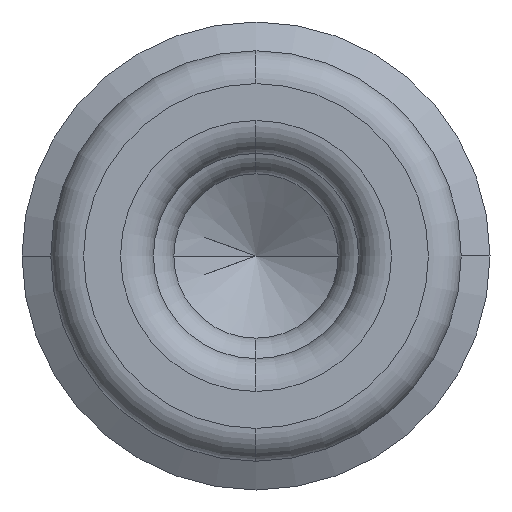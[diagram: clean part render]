
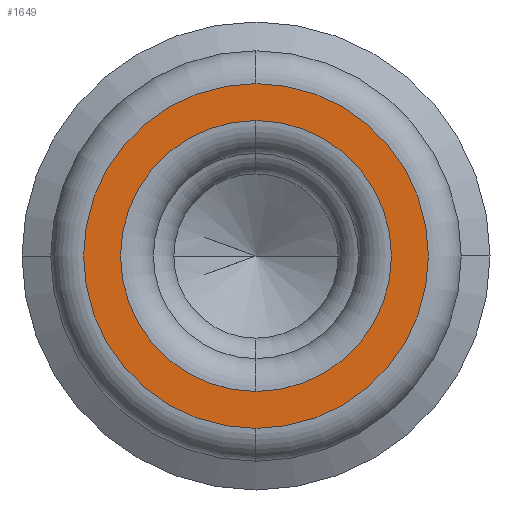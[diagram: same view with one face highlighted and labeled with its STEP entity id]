
A CAD part, left-side view. The second image highlights one B-rep face of the part: STEP entity #1649.
In plain terms, the highlighted planar face has unit normal (-1, 0, 0).
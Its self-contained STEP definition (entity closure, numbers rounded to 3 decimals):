
#1260=CARTESIAN_POINT('',(-1.0,0.,-1.65));
#1261=VERTEX_POINT('',#1260);
#1279=CARTESIAN_POINT('',(-1.0,0.,1.65));
#1280=VERTEX_POINT('',#1279);
#1288=CARTESIAN_POINT('',(-1.0,1.65,0.0));
#1289=VERTEX_POINT('',#1288);
#1290=CARTESIAN_POINT('',(-1.0,0.0,0.0));
#1291=DIRECTION('',(-1.0,0.0,0.0));
#1292=DIRECTION('',(0.0,-1.0,0.0));
#1293=AXIS2_PLACEMENT_3D('',#1290,#1291,#1292);
#1294=CIRCLE('',#1293,1.65);
#1295=EDGE_CURVE('',#1280,#1289,#1294,.T.);
#1297=CARTESIAN_POINT('',(-1.0,0.0,0.0));
#1298=DIRECTION('',(-1.0,0.0,0.0));
#1299=DIRECTION('',(0.0,-1.0,0.0));
#1300=AXIS2_PLACEMENT_3D('',#1297,#1298,#1299);
#1301=CIRCLE('',#1300,1.65);
#1302=EDGE_CURVE('',#1289,#1261,#1301,.T.);
#1353=CARTESIAN_POINT('',(-1.0,0.,-2.1));
#1354=VERTEX_POINT('',#1353);
#1364=CARTESIAN_POINT('',(-1.0,2.1,0.0));
#1365=VERTEX_POINT('',#1364);
#1366=CARTESIAN_POINT('',(-1.0,0.0,0.0));
#1367=DIRECTION('',(1.0,0.0,0.0));
#1368=DIRECTION('',(0.0,-1.0,0.0));
#1369=AXIS2_PLACEMENT_3D('',#1366,#1367,#1368);
#1370=CIRCLE('',#1369,2.1);
#1371=EDGE_CURVE('',#1354,#1365,#1370,.T.);
#1373=CARTESIAN_POINT('',(-1.0,0.,2.1));
#1374=VERTEX_POINT('',#1373);
#1375=CARTESIAN_POINT('',(-1.0,0.0,0.0));
#1376=DIRECTION('',(1.0,0.0,0.0));
#1377=DIRECTION('',(0.0,-1.0,0.0));
#1378=AXIS2_PLACEMENT_3D('',#1375,#1376,#1377);
#1379=CIRCLE('',#1378,2.1);
#1380=EDGE_CURVE('',#1365,#1374,#1379,.T.);
#1618=CARTESIAN_POINT('',(-1.0,0.0,0.0));
#1619=DIRECTION('',(1.0,0.0,0.0));
#1620=DIRECTION('',(0.0,-1.0,0.0));
#1621=AXIS2_PLACEMENT_3D('',#1618,#1619,#1620);
#1622=CIRCLE('',#1621,2.1);
#1623=EDGE_CURVE('',#1374,#1354,#1622,.T.);
#1628=CARTESIAN_POINT('',(-1.0,1.25,0.0));
#1629=DIRECTION('',(-1.0,0.0,0.0));
#1630=DIRECTION('',(0.0,0.0,1.0));
#1631=AXIS2_PLACEMENT_3D('',#1628,#1629,#1630);
#1632=PLANE('',#1631);
#1633=ORIENTED_EDGE('',*,*,#1380,.F.);
#1634=ORIENTED_EDGE('',*,*,#1371,.F.);
#1635=ORIENTED_EDGE('',*,*,#1623,.F.);
#1636=EDGE_LOOP('',(#1633,#1634,#1635));
#1637=FACE_OUTER_BOUND('',#1636,.T.);
#1638=ORIENTED_EDGE('',*,*,#1302,.F.);
#1639=ORIENTED_EDGE('',*,*,#1295,.F.);
#1640=CARTESIAN_POINT('',(-1.0,0.0,0.0));
#1641=DIRECTION('',(-1.0,0.0,0.0));
#1642=DIRECTION('',(0.0,-1.0,0.0));
#1643=AXIS2_PLACEMENT_3D('',#1640,#1641,#1642);
#1644=CIRCLE('',#1643,1.65);
#1645=EDGE_CURVE('',#1261,#1280,#1644,.T.);
#1646=ORIENTED_EDGE('',*,*,#1645,.F.);
#1647=EDGE_LOOP('',(#1638,#1639,#1646));
#1648=FACE_BOUND('',#1647,.T.);
#1649=ADVANCED_FACE('',(#1637,#1648),#1632,.T.);
